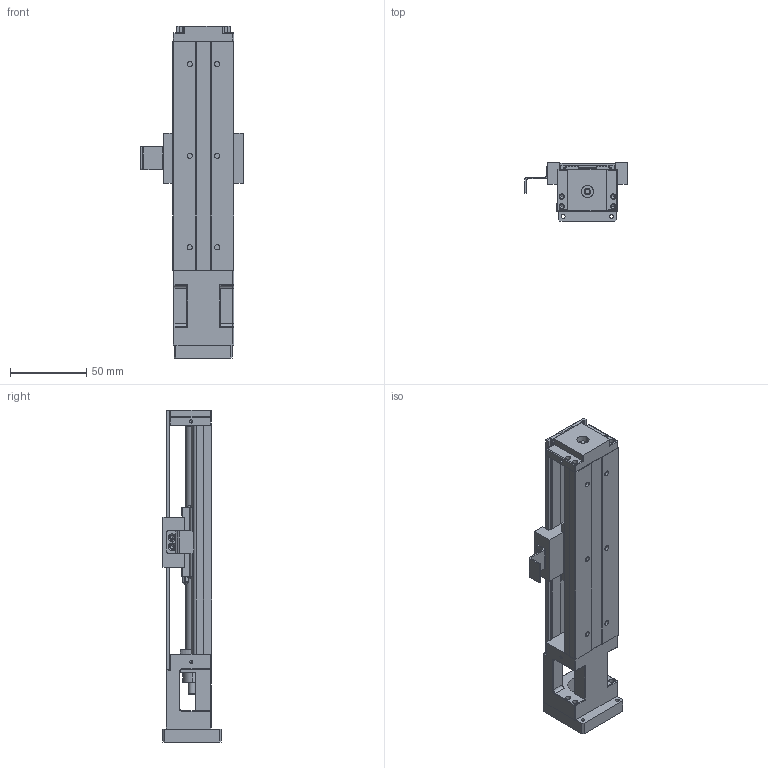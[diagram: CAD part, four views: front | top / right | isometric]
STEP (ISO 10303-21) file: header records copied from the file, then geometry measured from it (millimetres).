
FILE_DESCRIPTION (( 'STEP AP203' ), '1' );
FILE_NAME ('SK40-01-150.step', '2023-01-14T07:18:51', ( '' ), ( '' ), 'SwSTEP 2.0', 'SolidWorks 2018', '' );
FILE_SCHEMA (( 'CONFIG_CONTROL_DESIGN' ));
Length unit declared in the file: millimetre
Products named in the file (14): KK40________.STEP; KK40______-2.STEP; KK40-A1____.STEP; KK40-150____.STEP; ______KK-40-FS.STEP; KK40____.STEP; ______KK-40-CV-150.STEP; KK40______.STEP; 671____KK-40-S1-D1.STEP; KK40__________.STEP; ____KK-40-F2.STEP; KK40-150____-0.STEP; SK40-01-150; KK40______-1.STEP
Assembly tree (14 placements, depth 2):
  SK40-01-150
    KK40-150____.STEP
    KK40____.STEP
    KK40______.STEP
    KK40__________.STEP
    KK40-150____-0.STEP
    KK40______-1.STEP  x2
    KK40________.STEP
    KK40______-2.STEP
    KK40-A1____.STEP
    ______KK-40-FS.STEP
    ______KK-40-CV-150.STEP
    671____KK-40-S1-D1.STEP
    ____KK-40-F2.STEP
Bounding box: 67 x 38 x 217.5 mm (x, y, z)
Volume: 136403.3 mm3; surface area: 77753.7 mm2
Topology: 14 solids, 19 shells, 856 faces, 2272 edges, 1407 vertices
Faces by surface type: cylinder 399, plane 318, cone 110, bspline 29
Entity records: 28396 total; most frequent: CARTESIAN_POINT 5849, DIRECTION 4493, ORIENTED_EDGE 4316, EDGE_CURVE 2158, AXIS2_PLACEMENT_3D 1649, VERTEX_POINT 1397, LINE 1195, VECTOR 1195
